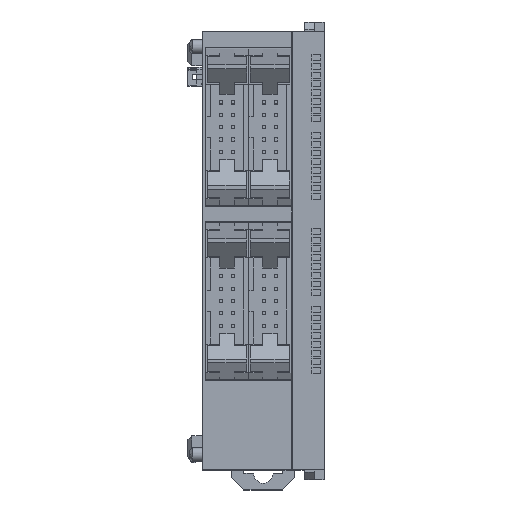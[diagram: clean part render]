
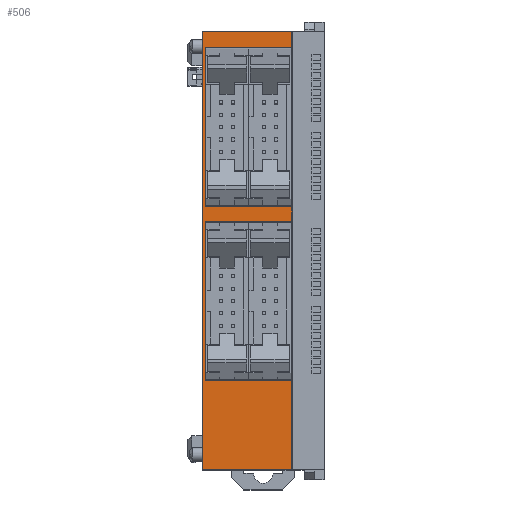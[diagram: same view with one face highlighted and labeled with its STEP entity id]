
A CAD part, top view. The second image highlights one B-rep face of the part: STEP entity #506.
In plain terms, the highlighted planar face has unit normal (0, 0, 1).
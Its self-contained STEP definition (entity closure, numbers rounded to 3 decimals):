
#169 = EDGE_CURVE ( 'NONE', #381, #35414, #13246, .T. ) ;
#253 = ORIENTED_EDGE ( 'NONE', *, *, #169, .F. ) ;
#321 = ORIENTED_EDGE ( 'NONE', *, *, #1033, .F. ) ;
#381 = VERTEX_POINT ( 'NONE', #13618 ) ;
#455 = VERTEX_POINT ( 'NONE', #13716 ) ;
#482 = EDGE_CURVE ( 'NONE', #1015, #381, #13828, .T. ) ;
#484 = ORIENTED_EDGE ( 'NONE', *, *, #482, .F. ) ;
#506 = ADVANCED_FACE ( 'NONE', ( #13866 ), #13865, .T. ) ;
#522 = EDGE_CURVE ( 'NONE', #35524, #455, #13896, .T. ) ;
#804 = VERTEX_POINT ( 'NONE', #14363 ) ;
#837 = EDGE_CURVE ( 'NONE', #804, #35523, #14389, .T. ) ;
#994 = EDGE_LOOP ( 'NONE', ( #253, #484, #1032, #321, #1044, #1001, #35503, #1010, #1067, #1004, #1012, #1068 ) ) ;
#995 = VERTEX_POINT ( 'NONE', #14688 ) ;
#1001 = ORIENTED_EDGE ( 'NONE', *, *, #35509, .T. ) ;
#1004 = ORIENTED_EDGE ( 'NONE', *, *, #1065, .F. ) ;
#1008 = VERTEX_POINT ( 'NONE', #14676 ) ;
#1010 = ORIENTED_EDGE ( 'NONE', *, *, #1027, .F. ) ;
#1012 = ORIENTED_EDGE ( 'NONE', *, *, #1060, .F. ) ;
#1015 = VERTEX_POINT ( 'NONE', #14679 ) ;
#1025 = VERTEX_POINT ( 'NONE', #14705 ) ;
#1027 = EDGE_CURVE ( 'NONE', #1008, #455, #14697, .T. ) ;
#1032 = ORIENTED_EDGE ( 'NONE', *, *, #1266, .F. ) ;
#1033 = EDGE_CURVE ( 'NONE', #804, #1025, #14745, .T. ) ;
#1035 = VERTEX_POINT ( 'NONE', #14751 ) ;
#1044 = ORIENTED_EDGE ( 'NONE', *, *, #837, .T. ) ;
#1060 = EDGE_CURVE ( 'NONE', #35422, #995, #14782, .T. ) ;
#1065 = EDGE_CURVE ( 'NONE', #995, #1035, #14760, .T. ) ;
#1067 = ORIENTED_EDGE ( 'NONE', *, *, #1071, .F. ) ;
#1068 = ORIENTED_EDGE ( 'NONE', *, *, #35427, .F. ) ;
#1071 = EDGE_CURVE ( 'NONE', #1035, #1008, #14755, .T. ) ;
#1266 = EDGE_CURVE ( 'NONE', #1025, #1015, #15050, .T. ) ;
#13243 = DIRECTION ( 'NONE',  ( 1., 0., 0. ) ) ;
#13244 = VECTOR ( 'NONE', #13243, 1000. ) ;
#13245 = CARTESIAN_POINT ( 'NONE',  ( 5.8, 9., 60. ) ) ;
#13246 = LINE ( 'NONE', #13245, #13244 ) ;
#13618 = CARTESIAN_POINT ( 'NONE',  ( -11.9, 9., 60. ) ) ;
#13716 = CARTESIAN_POINT ( 'NONE',  ( 5.8, -45., 60. ) ) ;
#13823 = DIRECTION ( 'NONE',  ( 0., -1., 0. ) ) ;
#13824 = VECTOR ( 'NONE', #13823, 1000. ) ;
#13827 = CARTESIAN_POINT ( 'NONE',  ( -11.9, 41.7, 60. ) ) ;
#13828 = LINE ( 'NONE', #13827, #13824 ) ;
#13851 = DIRECTION ( 'NONE',  ( 1., 0., 0. ) ) ;
#13852 = DIRECTION ( 'NONE',  ( 0., 0., 1. ) ) ;
#13856 = AXIS2_PLACEMENT_3D ( 'NONE', #13860, #13852, #13851 ) ;
#13860 = CARTESIAN_POINT ( 'NONE',  ( -12.5, -45., 60. ) ) ;
#13865 = PLANE ( 'NONE',  #13856 ) ;
#13866 = FACE_OUTER_BOUND ( 'NONE', #994, .T. ) ;
#13892 = DIRECTION ( 'NONE',  ( 1., 0., 0. ) ) ;
#13893 = VECTOR ( 'NONE', #13892, 1000. ) ;
#13894 = CARTESIAN_POINT ( 'NONE',  ( -12.5, -45., 60. ) ) ;
#13896 = LINE ( 'NONE', #13894, #13893 ) ;
#14363 = CARTESIAN_POINT ( 'NONE',  ( 5.8, 45., 60. ) ) ;
#14374 = DIRECTION ( 'NONE',  ( -1., 0., 0. ) ) ;
#14387 = VECTOR ( 'NONE', #14374, 1000. ) ;
#14388 = CARTESIAN_POINT ( 'NONE',  ( -12.5, 45., 60. ) ) ;
#14389 = LINE ( 'NONE', #14388, #14387 ) ;
#14676 = CARTESIAN_POINT ( 'NONE',  ( 5.8, -26.7, 60. ) ) ;
#14679 = CARTESIAN_POINT ( 'NONE',  ( -11.9, 41.7, 60. ) ) ;
#14688 = CARTESIAN_POINT ( 'NONE',  ( -11.9, 6., 60. ) ) ;
#14694 = DIRECTION ( 'NONE',  ( 0., -1., 0. ) ) ;
#14695 = VECTOR ( 'NONE', #14694, 1000. ) ;
#14696 = CARTESIAN_POINT ( 'NONE',  ( 5.8, 45., 60. ) ) ;
#14697 = LINE ( 'NONE', #14696, #14695 ) ;
#14705 = CARTESIAN_POINT ( 'NONE',  ( 5.8, 41.7, 60. ) ) ;
#14741 = DIRECTION ( 'NONE',  ( 0., -1., 0. ) ) ;
#14742 = VECTOR ( 'NONE', #14741, 1000. ) ;
#14743 = CARTESIAN_POINT ( 'NONE',  ( 5.8, 45., 60. ) ) ;
#14745 = LINE ( 'NONE', #14743, #14742 ) ;
#14751 = CARTESIAN_POINT ( 'NONE',  ( -11.9, -26.7, 60. ) ) ;
#14754 = CARTESIAN_POINT ( 'NONE',  ( 5.8, -26.7, 60. ) ) ;
#14755 = LINE ( 'NONE', #14754, #14813 ) ;
#14757 = DIRECTION ( 'NONE',  ( 0., -1., 0. ) ) ;
#14758 = VECTOR ( 'NONE', #14757, 1000. ) ;
#14759 = CARTESIAN_POINT ( 'NONE',  ( -11.9, 6., 60. ) ) ;
#14760 = LINE ( 'NONE', #14759, #14758 ) ;
#14771 = DIRECTION ( 'NONE',  ( -1., 0., 0. ) ) ;
#14772 = VECTOR ( 'NONE', #14771, 1000. ) ;
#14781 = CARTESIAN_POINT ( 'NONE',  ( 5.8, 6., 60. ) ) ;
#14782 = LINE ( 'NONE', #14781, #14772 ) ;
#14812 = DIRECTION ( 'NONE',  ( 1., 0., 0. ) ) ;
#14813 = VECTOR ( 'NONE', #14812, 1000. ) ;
#15040 = DIRECTION ( 'NONE',  ( -1., 0., 0. ) ) ;
#15041 = VECTOR ( 'NONE', #15040, 1000. ) ;
#15042 = CARTESIAN_POINT ( 'NONE',  ( 5.8, 41.7, 60. ) ) ;
#15050 = LINE ( 'NONE', #15042, #15041 ) ;
#34658 = DIRECTION ( 'NONE',  ( 0., -1., 0. ) ) ;
#34659 = VECTOR ( 'NONE', #34658, 1000. ) ;
#34660 = CARTESIAN_POINT ( 'NONE',  ( 5.8, 45., 60. ) ) ;
#34663 = LINE ( 'NONE', #34660, #34659 ) ;
#34679 = CARTESIAN_POINT ( 'NONE',  ( 5.8, 9., 60. ) ) ;
#34680 = CARTESIAN_POINT ( 'NONE',  ( 5.8, 6., 60. ) ) ;
#34816 = LINE ( 'NONE', #34823, #34872 ) ;
#34822 = DIRECTION ( 'NONE',  ( 0., -1., 0. ) ) ;
#34823 = CARTESIAN_POINT ( 'NONE',  ( -12.5, 45., 60. ) ) ;
#34845 = CARTESIAN_POINT ( 'NONE',  ( -12.5, 45., 60. ) ) ;
#34850 = CARTESIAN_POINT ( 'NONE',  ( -12.5, -45., 60. ) ) ;
#34872 = VECTOR ( 'NONE', #34822, 1000. ) ;
#35414 = VERTEX_POINT ( 'NONE', #34679 ) ;
#35422 = VERTEX_POINT ( 'NONE', #34680 ) ;
#35427 = EDGE_CURVE ( 'NONE', #35414, #35422, #34663, .T. ) ;
#35503 = ORIENTED_EDGE ( 'NONE', *, *, #522, .T. ) ;
#35509 = EDGE_CURVE ( 'NONE', #35523, #35524, #34816, .T. ) ;
#35523 = VERTEX_POINT ( 'NONE', #34845 ) ;
#35524 = VERTEX_POINT ( 'NONE', #34850 ) ;
